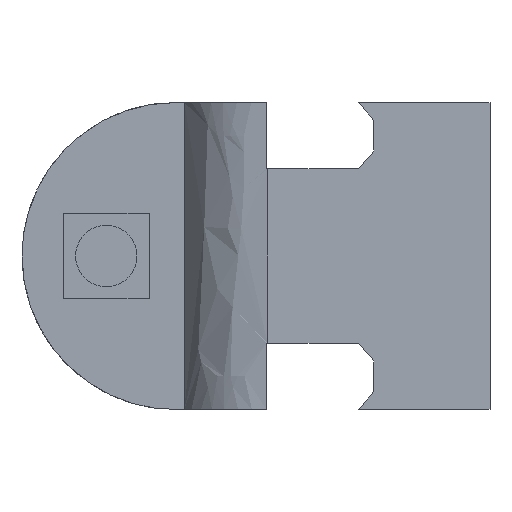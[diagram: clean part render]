
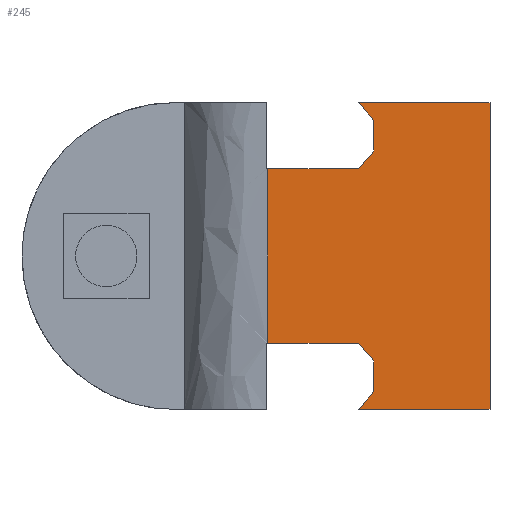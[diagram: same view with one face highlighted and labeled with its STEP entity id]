
A CAD part, front view. The second image highlights one B-rep face of the part: STEP entity #245.
In plain terms, the highlighted planar face has unit normal (0, -1, 0).
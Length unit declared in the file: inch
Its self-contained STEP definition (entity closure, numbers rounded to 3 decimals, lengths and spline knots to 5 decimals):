
#245=ADVANCED_FACE('',(#492),#493,.T.);
#492=FACE_OUTER_BOUND('',#1087,.T.);
#493=PLANE('',#1088);
#1087=EDGE_LOOP('',(#1691,#1692,#1693,#1694,#1695,#1696,#1697,#1698,#1699,#1700,#1701,#1702));
#1088=AXIS2_PLACEMENT_3D('',#1703,#1704,#1705);
#1691=ORIENTED_EDGE('',*,*,#2165,.T.);
#1692=ORIENTED_EDGE('',*,*,#2080,.T.);
#1693=ORIENTED_EDGE('',*,*,#2166,.T.);
#1694=ORIENTED_EDGE('',*,*,#2106,.T.);
#1695=ORIENTED_EDGE('',*,*,#2084,.T.);
#1696=ORIENTED_EDGE('',*,*,#2023,.F.);
#1697=ORIENTED_EDGE('',*,*,#2167,.T.);
#1698=ORIENTED_EDGE('',*,*,#2144,.T.);
#1699=ORIENTED_EDGE('',*,*,#2111,.T.);
#1700=ORIENTED_EDGE('',*,*,#2168,.T.);
#1701=ORIENTED_EDGE('',*,*,#2169,.T.);
#1702=ORIENTED_EDGE('',*,*,#2170,.T.);
#1703=CARTESIAN_POINT('',(1.28448,0.39262,0.0));
#1704=DIRECTION('',(0.0,-1.0,0.0));
#1705=DIRECTION('',(1.0,0.0,0.0));
#2023=EDGE_CURVE('',#2343,#2330,#2345,.T.);
#2080=EDGE_CURVE('',#2436,#2434,#2437,.T.);
#2084=EDGE_CURVE('',#2442,#2330,#2443,.T.);
#2106=EDGE_CURVE('',#2473,#2442,#2474,.T.);
#2111=EDGE_CURVE('',#2482,#2480,#2483,.T.);
#2144=EDGE_CURVE('',#2531,#2482,#2532,.T.);
#2165=EDGE_CURVE('',#2555,#2436,#2556,.T.);
#2166=EDGE_CURVE('',#2434,#2473,#2557,.T.);
#2167=EDGE_CURVE('',#2343,#2531,#2558,.T.);
#2168=EDGE_CURVE('',#2480,#2559,#2560,.T.);
#2169=EDGE_CURVE('',#2559,#2561,#2562,.T.);
#2170=EDGE_CURVE('',#2561,#2555,#2563,.T.);
#2330=VERTEX_POINT('',#2823);
#2343=VERTEX_POINT('',#2852);
#2345=LINE('',#2857,#2858);
#2434=VERTEX_POINT('',#3061);
#2436=VERTEX_POINT('',#3064);
#2437=LINE('',#3065,#3066);
#2442=VERTEX_POINT('',#3073);
#2443=LINE('',#3074,#3075);
#2473=VERTEX_POINT('',#3184);
#2474=LINE('',#3185,#3186);
#2480=VERTEX_POINT('',#3194);
#2482=VERTEX_POINT('',#3197);
#2483=LINE('',#3198,#3199);
#2531=VERTEX_POINT('',#3296);
#2532=LINE('',#3297,#3298);
#2555=VERTEX_POINT('',#3358);
#2556=LINE('',#3359,#3360);
#2557=LINE('',#3361,#3362);
#2558=LINE('',#3363,#3364);
#2559=VERTEX_POINT('',#3365);
#2560=LINE('',#3366,#3367);
#2561=VERTEX_POINT('',#3368);
#2562=LINE('',#3369,#3370);
#2563=LINE('',#3371,#3372);
#2823=CARTESIAN_POINT('',(0.83168,0.39262,0.97994));
#2852=CARTESIAN_POINT('',(0.83168,0.39262,0.27005));
#2857=CARTESIAN_POINT('',(0.83168,0.39262,0.0));
#2858=VECTOR('',#3536,1.0);
#3061=CARTESIAN_POINT('',(1.26438,0.39262,1.17739));
#3064=CARTESIAN_POINT('',(1.2019,0.39262,1.24989));
#3065=CARTESIAN_POINT('',(1.54416,0.39262,0.85272));
#3066=VECTOR('',#3554,1.0);
#3073=CARTESIAN_POINT('',(1.2019,0.39262,0.97994));
#3074=CARTESIAN_POINT('',(1.14946,0.39262,0.97994));
#3075=VECTOR('',#3557,1.0);
#3184=CARTESIAN_POINT('',(1.26438,0.39262,1.05244));
#3185=CARTESIAN_POINT('',(0.99282,0.39262,0.73731));
#3186=VECTOR('',#3570,1.);
#3194=CARTESIAN_POINT('',(1.26438,0.39262,0.07259));
#3197=CARTESIAN_POINT('',(1.26438,0.39262,0.19755));
#3198=CARTESIAN_POINT('',(1.26438,0.39262,0.06754));
#3199=VECTOR('',#3574,1.0);
#3296=CARTESIAN_POINT('',(1.2019,0.39262,0.27005));
#3297=CARTESIAN_POINT('',(1.30189,0.39262,0.15402));
#3298=VECTOR('',#3589,1.0);
#3358=CARTESIAN_POINT('',(1.73728,0.39262,1.24989));
#3359=CARTESIAN_POINT('',(1.39095,0.39262,1.24989));
#3360=VECTOR('',#3601,1.0);
#3361=CARTESIAN_POINT('',(1.26438,0.39262,0.55746));
#3362=VECTOR('',#3602,1.0);
#3363=CARTESIAN_POINT('',(1.14946,0.39262,0.27005));
#3364=VECTOR('',#3603,1.0);
#3365=CARTESIAN_POINT('',(1.2019,0.39262,0.00009));
#3366=CARTESIAN_POINT('',(1.23509,0.39262,0.03861));
#3367=VECTOR('',#3604,1.);
#3368=CARTESIAN_POINT('',(1.73728,0.39262,0.00009));
#3369=CARTESIAN_POINT('',(1.39095,0.39262,0.00009));
#3370=VECTOR('',#3605,1.0);
#3371=CARTESIAN_POINT('',(1.73728,0.39262,0.0));
#3372=VECTOR('',#3606,1.0);
#3536=DIRECTION('',(0.0,0.0,1.0));
#3554=DIRECTION('',(0.653,-0.0,-0.758));
#3557=DIRECTION('',(-1.0,0.0,0.0));
#3570=DIRECTION('',(-0.653,0.0,-0.758));
#3574=DIRECTION('',(0.0,-0.0,-1.0));
#3589=DIRECTION('',(0.653,-0.0,-0.758));
#3601=DIRECTION('',(-1.0,0.0,0.0));
#3602=DIRECTION('',(0.0,-0.0,-1.0));
#3603=DIRECTION('',(1.0,0.0,0.0));
#3604=DIRECTION('',(-0.653,0.0,-0.758));
#3605=DIRECTION('',(1.0,0.0,0.0));
#3606=DIRECTION('',(0.0,0.0,1.0));
